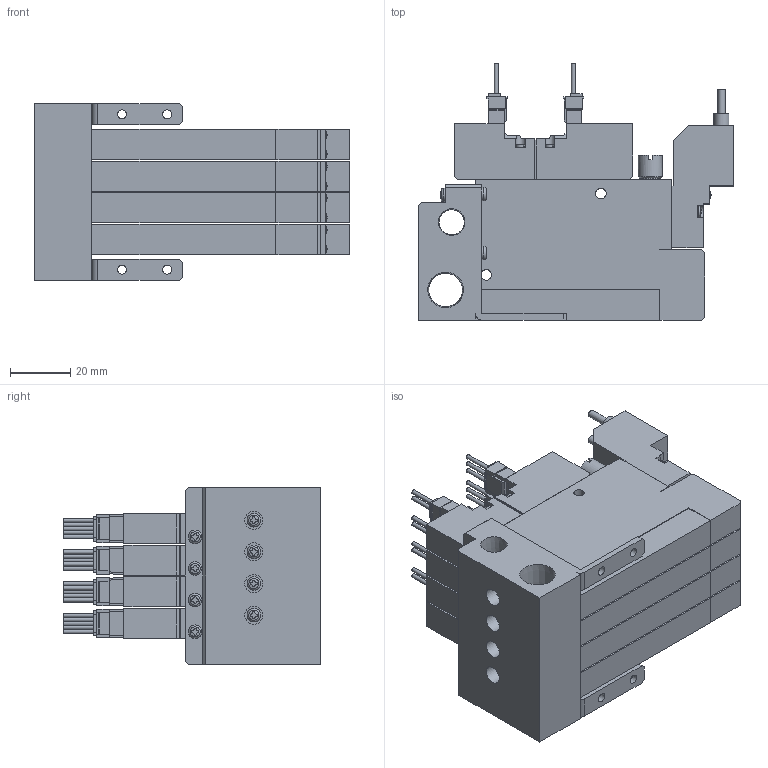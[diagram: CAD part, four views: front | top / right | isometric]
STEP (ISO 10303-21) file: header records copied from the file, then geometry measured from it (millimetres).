
FILE_DESCRIPTION(('STEP AP203'),'1');
FILE_NAME('V8C5WC404_3D.stp','2024-09-04T13:57:35',(' '),(' '),'Spatial InterOp 3D',' ',' ');
FILE_SCHEMA(('CONFIG_CONTROL_DESIGN'));
Length unit declared in the file: millimetre
Products named in the file (5): BSC1M※※V8C5WC404; Solenoid valve W; Pressure Sensor V8; Unit-C; BaseMC40R
Assembly tree (13 placements, depth 2):
  BSC1M※※V8C5WC404
    Solenoid valve W  x4
    Pressure Sensor V8  x4
    Unit-C  x4
    BaseMC40R
Bounding box: 104.5 x 85.05 x 58.5 mm (x, y, z)
Volume: 236449.1 mm3; surface area: 83232.4 mm2
Topology: 13 solids, 13 shells, 1635 faces, 4375 edges, 2894 vertices
Faces by surface type: plane 1251, cylinder 296, cone 40, torus 28, sphere 20
Full cylindrical faces by diameter (mm): 1.4 x20, 2.5 x20, 3 x20, 3.5 x24, 4 x4, 4.134 x8, 4.5 x12, 5 x4, 5.5 x4, 6 x4, 7 x8, 8 x4, 8.422 x1, 11.233 x1
Entity records: 18300 total; most frequent: CARTESIAN_POINT 4106, DIRECTION 2820, ORIENTED_EDGE 2754, EDGE_CURVE 1377, VERTEX_POINT 971, LINE 942, VECTOR 942, AXIS2_PLACEMENT_3D 939
